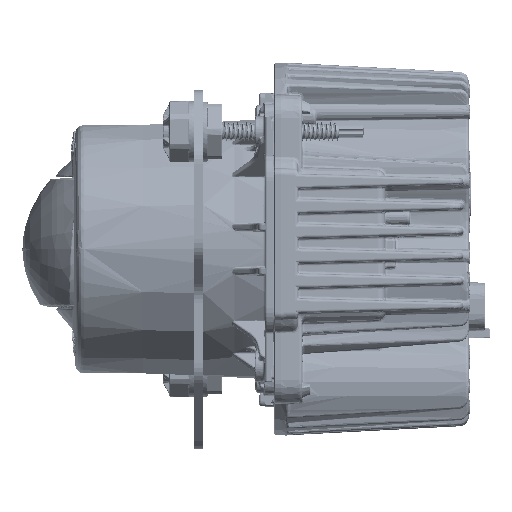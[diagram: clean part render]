
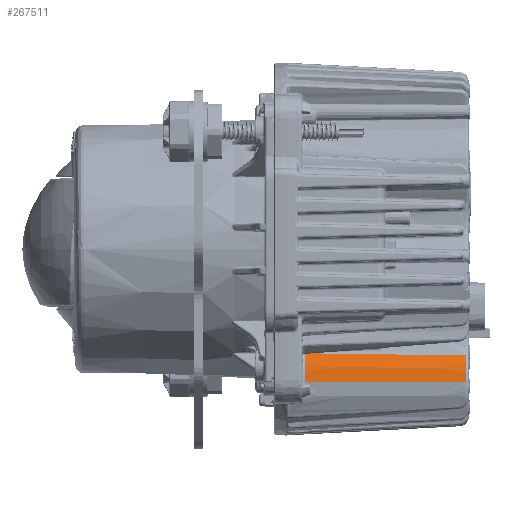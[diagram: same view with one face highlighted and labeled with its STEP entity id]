
A CAD part, front view. The second image highlights one B-rep face of the part: STEP entity #267511.
In plain terms, the highlighted conical face has half-angle 1.5 degrees and reference radius 19 mm.
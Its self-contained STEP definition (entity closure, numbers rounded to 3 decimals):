
#106273=VERTEX_POINT('',#106272) ;
#107545=VERTEX_POINT('',#107544) ;
#157824=VERTEX_POINT('',#157823) ;
#157831=VERTEX_POINT('',#157830) ;
#107549=VECTOR('Line Direction',#107548,1.) ;
#157828=VECTOR('Line Direction',#157827,1.) ;
#107548=DIRECTION('Vector Direction',(1.,0.023,-0.013)) ;
#157799=DIRECTION('Axis2P3D Direction',(-1.,0.,0.)) ;
#157800=DIRECTION('Axis2P3D XDirection',(0.,-0.866,0.5)) ;
#157827=DIRECTION('Vector Direction',(-1.,-0.026,0.)) ;
#267443=DIRECTION('Axis2P3D Direction',(-1.,0.,0.)) ;
#267501=DIRECTION('Axis2P3D Direction',(1.,0.,0.)) ;
#106272=CARTESIAN_POINT('Vertex',(7.49,-90.568,-217.06)) ;
#107544=CARTESIAN_POINT('Vertex',(-50.862,-91.891,-216.296)) ;
#107547=CARTESIAN_POINT('Line Origine',(-20.036,-91.192,-216.699)) ;
#157798=CARTESIAN_POINT('Axis2P3D Location',(9.464,-74.069,-226.586)) ;
#157823=CARTESIAN_POINT('Vertex',(7.49,-93.12,-226.586)) ;
#157826=CARTESIAN_POINT('Line Origine',(-20.036,-93.841,-226.586)) ;
#157830=CARTESIAN_POINT('Vertex',(-50.862,-94.648,-226.586)) ;
#267442=CARTESIAN_POINT('Axis2P3D Location',(-50.862,-74.069,-226.586)) ;
#267500=CARTESIAN_POINT('Axis2P3D Location',(7.49,-74.069,-226.586)) ;
#157801=AXIS2_PLACEMENT_3D('Cone Axis2P3D',#157798,#157799,#157800) ;
#267444=AXIS2_PLACEMENT_3D('Circle Axis2P3D',#267442,#267443,$) ;
#267502=AXIS2_PLACEMENT_3D('Circle Axis2P3D',#267500,#267501,$) ;
#267445=CIRCLE('generated circle',#267444,20.58) ;
#267503=CIRCLE('generated circle',#267502,19.052) ;
#157802=CONICAL_SURFACE('Cone',#157801,19.,0.026) ;
#107550=LINE('Line',#107547,#107549) ;
#157829=LINE('Line',#157826,#157828) ;
#107551=EDGE_CURVE('',#107545,#106273,#107550,.T.) ;
#157832=EDGE_CURVE('',#157824,#157831,#157829,.T.) ;
#267446=EDGE_CURVE('',#157831,#107545,#267445,.T.) ;
#267504=EDGE_CURVE('',#157824,#106273,#267503,.F.) ;
#267506=ORIENTED_EDGE('',*,*,#157832,.F.) ;
#267507=ORIENTED_EDGE('',*,*,#267504,.T.) ;
#267508=ORIENTED_EDGE('',*,*,#107551,.F.) ;
#267509=ORIENTED_EDGE('',*,*,#267446,.F.) ;
#267505=EDGE_LOOP('',(#267506,#267507,#267508,#267509)) ;
#267511=ADVANCED_FACE('015.318-00',(#267510),#157802,.T.) ;
#267510=FACE_OUTER_BOUND('',#267505,.T.) ;
